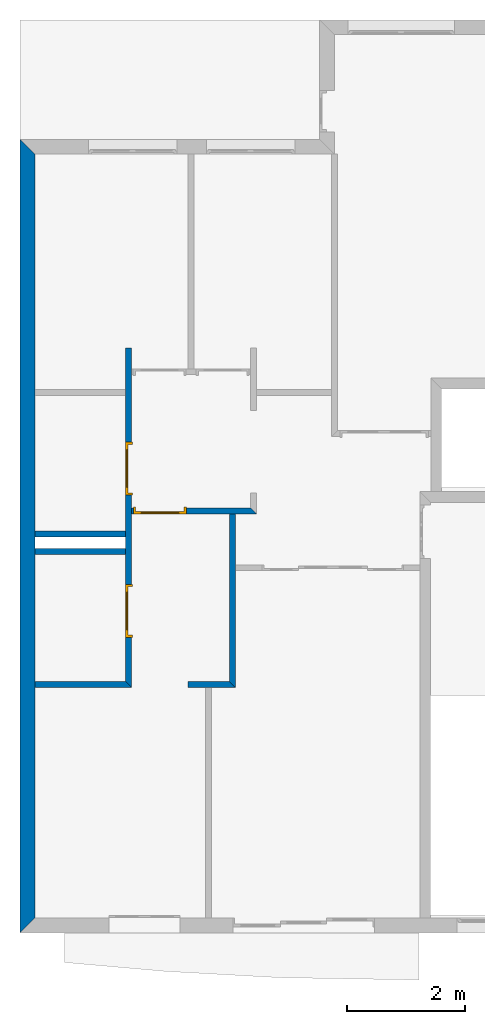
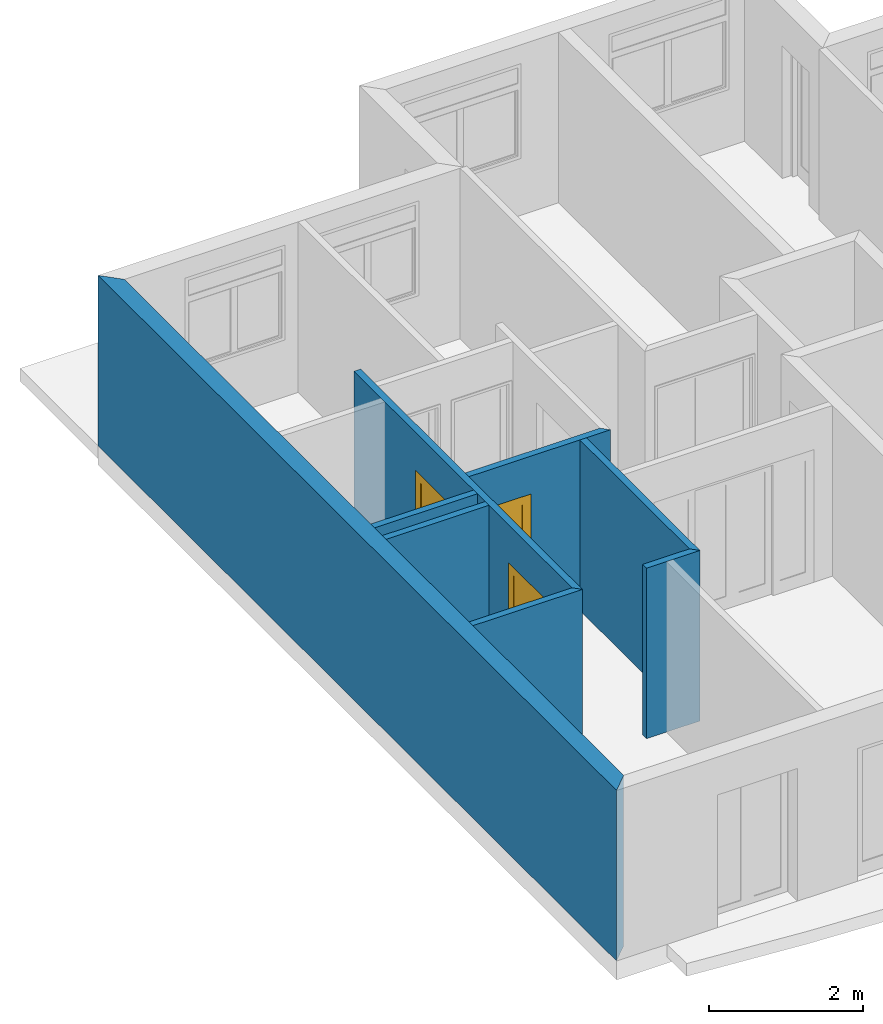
# One storey, part 4 of 12: 8 walls, 3 doors, 3 openings.
"""IFC2X3 building model written with IfcOpenShell, lengths in metres."""

from ifc_helpers import new_model, entity, si_unit, converted_unit, direction, frame, frame_2d, origin_with_axes, place, context, project, spatial, polyline, rectangle, outline, extrude, faceted_brep, source, transform, mapped, material, layer, layer_set, layer_usage, type_object, element, fill, save


model = new_model("IFC2X3")

# Units and contexts
context_of_model = context(None, 3, precision=1e-05, world=origin_with_axes(), true_north=direction((6.123234e-17, 1.0)))
plan_context = context("Plan", 3, precision=1e-05, world=origin_with_axes(), true_north=direction((6.123234e-17, 1.0)))
model_context = context("Model", 3, precision=1e-05, world=origin_with_axes(), true_north=direction((6.123234e-17, 1.0)))
ifc_project = project(units=[si_unit("LENGTHUNIT", "METRE"), si_unit("AREAUNIT", "SQUARE_METRE"), si_unit("VOLUMEUNIT", "CUBIC_METRE"), converted_unit("PLANEANGLEUNIT", "DEGREE", entity("IfcPlaneAngleMeasure", 0.017453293), si_unit("PLANEANGLEUNIT", "RADIAN"), dimensions=[0, 0, 0, 0, 0, 0, 0]), si_unit("SOLIDANGLEUNIT", "STERADIAN"), si_unit("MASSUNIT", "GRAM"), si_unit("TIMEUNIT", "SECOND"), si_unit("THERMODYNAMICTEMPERATUREUNIT", "DEGREE_CELSIUS"), si_unit("LUMINOUSINTENSITYUNIT", "LUMEN")], contexts=[context_of_model, plan_context, model_context])

# Site, building, storey
site_placement = place(None, origin_with_axes())
site = spatial("IfcSite", under=ifc_project, at=site_placement, Name="Por defecto Sitio", CompositionType="ELEMENT")
building_placement = place(site_placement, origin_with_axes())
building = spatial("IfcBuilding", under=site, at=building_placement, Name="Por defecto Edificio", CompositionType="ELEMENT")
storey_placement = place(building_placement, frame((0.0, 0.0, 10.2), z_axis=(0.0, 0.0, 1.0), x_axis=(1.0, 0.0, 0.0)))
storey = spatial("IfcBuildingStorey", under=building, at=storey_placement, Name="Tercera", CompositionType="ELEMENT", Elevation=10.2)

# Wall
ifc_material_1 = material(Name="Doble 1:4")
ifc_layer_1 = layer(ifc_material_1, 0.25, ventilated="UNKNOWN")
ifc_layer_set_1 = layer_set([ifc_layer_1], Name="Doble 1:4")
ifc_layer_usage_1 = layer_usage(ifc_layer_set_1, "AXIS2", "NEGATIVE", 0.0)
wall_type_1 = type_object("IfcWallType", Name="Doble 1:4", PredefinedType="NOTDEFINED")
wall_1_placement = place(storey_placement, frame((0.0, 0.0, 0.0), z_axis=(0.0, 0.0, 1.0), x_axis=(0.0, 1.0, 0.0)))
element("IfcWallStandardCase", 1, at=wall_1_placement, inside=storey, type_object=wall_type_1, material=ifc_layer_usage_1, Name="Muro-011", context=context_of_model, shape_type="SweptSolid", body=[
    extrude(outline(polyline([(0.25, -0.25), (13.199173, -0.25), (13.449173, 0.0), (0.0, 0.0), (0.25, -0.25)])), origin_with_axes(), (0.0, 0.0, 1.0), 2.7),
])

# Wall, opening, door
ifc_material_2 = material(Name="Ladrillo común")
ifc_layer_2 = layer(ifc_material_2, 0.1, ventilated="UNKNOWN")
ifc_layer_set_2 = layer_set([ifc_layer_2], Name="Ladrillo común")
ifc_layer_usage_2 = layer_usage(ifc_layer_set_2, "AXIS2", "NEGATIVE", 0.0)
wall_type_2 = type_object("IfcWallType", Name="Ladrillo común", PredefinedType="NOTDEFINED")
wall_2_placement = place(storey_placement, frame((1.8901652, 7.2022014, 0.0), z_axis=(0.0, 0.0, 1.0), x_axis=(1.0, 0.0, 0.0)))
wall_2 = element("IfcWallStandardCase", 2, at=wall_2_placement, inside=storey, type_object=wall_type_2, material=ifc_layer_usage_2, Name="Muro-024", context=context_of_model, shape_type="SweptSolid", body=[
    extrude(outline(polyline([(0.0, -0.1), (2.12, -0.1), (2.02, 0.0), (0.0, 0.0), (0.0, -0.1)])), origin_with_axes(), (0.0, 0.0, 1.0), 2.7),
])
opening_1_placement = place(wall_2_placement, frame((0.48089372, -0.1, 0.0), z_axis=(0.0, 0.0, 1.0), x_axis=(1.0, 0.0, 0.0)))
opening_1 = element("IfcOpeningElement", 3, at=opening_1_placement, cuts=wall_2, ObjectType="Opening", context=model_context, shape_type="SweptSolid", body=[
    extrude(rectangle(XDim=0.9, YDim=2.1, at=frame_2d((-1.110223e-16, 1.05), x_axis=(-1.0, 0.0))), frame((0.0, 0.0, 0.0), z_axis=(0.0, 1.0, 0.0), x_axis=(-1.0, 0.0, 0.0)), (0.0, 0.0, 1.0), 0.1),
])
door_style_1 = type_object("IfcDoorStyle", Name="P1 12", ConstructionType="NOTDEFINED", OperationType="SINGLE_SWING_LEFT", ParameterTakesPrecedence=False, Sizeable=False)
shared_shape_1 = source(origin_with_axes(), model_context, "Body", "Brep", [
    faceted_brep([(0.86, 0.075, -3.6739404e-18), (0.86, 0.0, 9.184851e-19), (0.86, 0.0, 2.06), (0.86, 0.075, 2.06), (0.872, 0.075, -3.6739404e-18), (0.872, 0.115, -6.123234e-18), (0.9, 0.115, -6.123234e-18), (0.9, 0.0, 9.184851e-19), (0.9, 0.0, 2.06), (0.872, 0.075, 2.06), (0.9, 0.115, 2.06), (0.872, 0.115, 2.06)], [[[0, 1, 2, 3]], [[4, 5, 6, 7, 1, 0]], [[7, 8, 2, 1]], [[9, 3, 2, 8, 10, 11]], [[9, 4, 0, 3]], [[11, 5, 4, 9]], [[11, 10, 6, 5]], [[8, 7, 6, 10]]]),
    faceted_brep([(0.028, 0.075, 2.06), (0.028, 0.115, 2.06), (0.0, 0.115, 2.06), (0.0, 0.0, 2.06), (0.04, 0.0, 2.06), (0.04, 0.075, 2.06), (0.028, 0.075, -3.6739404e-18), (0.028, 0.115, -6.123234e-18), (0.0, 0.115, -6.123234e-18), (0.0, 0.0, 0.0), (0.04, 0.0, 9.184851e-19), (0.04, 0.075, -3.6739404e-18)], [[[0, 1, 2, 3, 4, 5]], [[0, 6, 7, 1]], [[7, 8, 2, 1]], [[9, 3, 2, 8]], [[10, 4, 3, 9]], [[5, 4, 10, 11]], [[5, 11, 6, 0]], [[6, 11, 10, 9, 8, 7]]]),
    faceted_brep([(0.872, 0.115, 2.072), (0.028, 0.115, 2.072), (0.028, 0.115, 2.06), (0.0, 0.115, 2.06), (0.0, 0.115, 2.1), (0.9, 0.115, 2.1), (0.9, 0.115, 2.06), (0.872, 0.115, 2.06), (0.872, 0.075, 2.072), (0.028, 0.075, 2.072), (0.028, 0.075, 2.06), (0.04, 0.075, 2.06), (0.04, 0.0, 2.06), (0.0, 0.0, 2.06), (0.0, 0.0, 2.1), (0.9, 0.0, 2.1), (0.9, 0.0, 2.06), (0.872, 0.075, 2.06), (0.86, 0.0, 2.06), (0.86, 0.075, 2.06)], [[[0, 1, 2, 3, 4, 5, 6, 7]], [[0, 8, 9, 1]], [[1, 9, 10, 2]], [[10, 11, 12, 13, 3, 2]], [[13, 14, 4, 3]], [[14, 15, 5, 4]], [[15, 16, 6, 5]], [[17, 7, 6, 16, 18, 19]], [[7, 17, 8, 0]], [[10, 9, 8, 17, 19, 11]], [[19, 18, 12, 11]], [[14, 13, 12, 18, 16, 15]]]),
    faceted_brep([(0.028, 0.115, 0.2), (0.128, 0.115, 0.2), (0.128, 0.075, 0.2), (0.028, 0.075, 0.2), (0.028, 0.115, 1.972), (0.128, 0.115, 1.972), (0.128, 0.075, 1.972), (0.028, 0.075, 1.972)], [[[0, 1, 2, 3]], [[0, 4, 5, 1]], [[1, 5, 6, 2]], [[3, 2, 6, 7]], [[4, 0, 3, 7]], [[5, 4, 7, 6]]]),
    faceted_brep([(0.872, 0.115, 0.2), (0.872, 0.115, 1.972), (0.872, 0.075, 1.972), (0.872, 0.075, 0.2), (0.772, 0.115, 0.2), (0.772, 0.115, 1.972), (0.772, 0.075, 1.972), (0.772, 0.075, 0.2)], [[[0, 1, 2, 3]], [[0, 4, 5, 1]], [[1, 5, 6, 2]], [[3, 2, 6, 7]], [[4, 0, 3, 7]], [[5, 4, 7, 6]]]),
    faceted_brep([(0.028, 0.115, -6.123234e-18), (0.872, 0.115, -6.123234e-18), (0.872, 0.075, -3.6739404e-18), (0.028, 0.075, -3.6739404e-18), (0.028, 0.115, 0.2), (0.128, 0.115, 0.2), (0.772, 0.115, 0.2), (0.872, 0.115, 0.2), (0.872, 0.075, 0.2), (0.772, 0.075, 0.2), (0.128, 0.075, 0.2), (0.028, 0.075, 0.2)], [[[0, 1, 2, 3]], [[0, 4, 5, 6, 7, 1]], [[1, 7, 8, 2]], [[3, 2, 8, 9, 10, 11]], [[4, 0, 3, 11]], [[5, 4, 11, 10]], [[6, 5, 10, 9]], [[7, 6, 9, 8]]]),
    faceted_brep([(0.028, 0.115, 2.072), (0.028, 0.115, 1.972), (0.028, 0.075, 1.972), (0.028, 0.075, 2.072), (0.872, 0.115, 2.072), (0.872, 0.115, 1.972), (0.772, 0.115, 1.972), (0.128, 0.115, 1.972), (0.128, 0.075, 1.972), (0.772, 0.075, 1.972), (0.872, 0.075, 1.972), (0.872, 0.075, 2.072)], [[[0, 1, 2, 3]], [[0, 4, 5, 6, 7, 1]], [[1, 7, 8, 2]], [[3, 2, 8, 9, 10, 11]], [[4, 0, 3, 11]], [[5, 4, 11, 10]], [[6, 5, 10, 9]], [[7, 6, 9, 8]]]),
    faceted_brep([(0.128, 0.101, 0.2), (0.772, 0.101, 0.2), (0.772, 0.089, 0.2), (0.128, 0.089, 0.2), (0.128, 0.101, 1.972), (0.772, 0.101, 1.972), (0.772, 0.089, 1.972), (0.128, 0.089, 1.972)], [[[0, 1, 2, 3]], [[0, 4, 5, 1]], [[1, 5, 6, 2]], [[3, 2, 6, 7]], [[4, 0, 3, 7]], [[5, 4, 7, 6]]]),
])
door_1_placement = place(opening_1_placement, frame((0.45, 0.115, 0.0), z_axis=(0.0, 0.0, 1.0), x_axis=(-1.0, 0.0, 0.0)))
door_1 = element("IfcDoor", 4, at=door_1_placement, inside=storey, type_object=door_style_1, Name="P17", OverallHeight=2.1, OverallWidth=0.9, context=model_context, shape_type="MappedRepresentation", body=[
    mapped(shared_shape_1, transform((0.0, 0.0, 0.0), scale=1.0)),
])
fill(opening_1, door_1)

# Wall, openings, doors
ifc_layer_usage_3 = layer_usage(ifc_layer_set_2, "AXIS2", "NEGATIVE", 0.0)
wall_3_placement = place(storey_placement, frame((1.8901652, 9.9109196, 0.0), z_axis=(0.0, 0.0, 1.0), x_axis=(0.0, -1.0, 0.0)))
wall_3 = element("IfcWallStandardCase", 5, at=wall_3_placement, inside=storey, type_object=wall_type_2, material=ifc_layer_usage_3, Name="Muro-034", context=context_of_model, shape_type="SweptSolid", body=[
    extrude(outline(polyline([(0.0, -0.1), (5.6520584, -0.1), (5.7520584, 0.0), (0.0, 0.0), (0.0, -0.1)])), origin_with_axes(), (0.0, 0.0, 1.0), 2.7),
])
opening_2_placement = place(wall_3_placement, frame((4.45317, -0.1, 0.0), z_axis=(0.0, 0.0, 1.0), x_axis=(1.0, 0.0, 0.0)))
opening_2 = element("IfcOpeningElement", 6, at=opening_2_placement, cuts=wall_3, ObjectType="Opening", context=model_context, shape_type="SweptSolid", body=[
    extrude(rectangle(XDim=0.9, YDim=2.1, at=frame_2d((0.0, 1.05), x_axis=(-1.0, 0.0))), frame((0.0, 0.0, 0.0), z_axis=(0.0, 1.0, 0.0), x_axis=(-1.0, 0.0, 0.0)), (0.0, 0.0, 1.0), 0.1),
])
opening_3_placement = place(wall_3_placement, frame((2.0425457, -0.1, 0.0), z_axis=(0.0, 0.0, 1.0), x_axis=(1.0, 0.0, 0.0)))
opening_3 = element("IfcOpeningElement", 7, at=opening_3_placement, cuts=wall_3, ObjectType="Opening", context=model_context, shape_type="SweptSolid", body=[
    extrude(rectangle(XDim=0.9, YDim=2.1, at=frame_2d((0.0, 1.05), x_axis=(-1.0, 0.0))), frame((0.0, 0.0, 0.0), z_axis=(0.0, 1.0, 0.0), x_axis=(-1.0, 0.0, 0.0)), (0.0, 0.0, 1.0), 0.1),
])
door_style_2 = type_object("IfcDoorStyle", Name="P1 12", ConstructionType="NOTDEFINED", OperationType="SINGLE_SWING_RIGHT", ParameterTakesPrecedence=False, Sizeable=False)
shared_shape_2 = source(origin_with_axes(), model_context, "Body", "Brep", [
    faceted_brep([(0.04, 0.075, -2.4492936e-18), (0.04, 0.075, 2.06), (0.04, -9.3258734e-14, 2.06), (0.04, -9.3258734e-14, -7.0417191e-18), (0.028, 0.075, 2.06), (0.028, 0.075, -2.4492936e-18), (0.028, 0.115, 2.06), (2.220446e-16, 0.115, 2.06), (1.7763568e-15, -9.4146912e-14, 2.06), (0.0, 0.0, 0.0), (2.220446e-16, 0.115, 3.3744595e-33), (0.028, 0.115, 3.2707143e-33)], [[[0, 1, 2, 3]], [[4, 1, 0, 5]], [[4, 6, 7, 8, 2, 1]], [[9, 3, 2, 8]], [[5, 0, 3, 9, 10, 11]], [[6, 4, 5, 11]], [[6, 11, 10, 7]], [[8, 7, 10, 9]]]),
    faceted_brep([(0.872, 0.075, 2.06), (0.86, 0.075, 2.06), (0.86, -8.0824236e-14, 2.06), (0.9, -7.9936058e-14, 2.06), (0.9, 0.115, 2.06), (0.872, 0.115, 2.06), (0.872, 0.075, -2.4492936e-18), (0.86, 0.075, -2.4492936e-18), (0.86, -8.0824236e-14, -7.0417191e-18), (0.9, -7.9936058e-14, -7.0417191e-18), (0.9, 0.115, -3.3744595e-33), (0.872, 0.115, -3.1644931e-33)], [[[0, 1, 2, 3, 4, 5]], [[1, 0, 6, 7]], [[1, 7, 8, 2]], [[8, 9, 3, 2]], [[9, 10, 4, 3]], [[11, 5, 4, 10]], [[0, 5, 11, 6]], [[6, 11, 10, 9, 8, 7]]]),
    faceted_brep([(0.028, 0.115, 2.072), (0.028, 0.115, 2.06), (2.220446e-16, 0.115, 2.06), (2.220446e-16, 0.115, 2.1), (0.9, 0.115, 2.1), (0.9, 0.115, 2.06), (0.872, 0.115, 2.06), (0.872, 0.115, 2.072), (0.028, 0.075, 2.072), (0.028, 0.075, 2.06), (0.04, 0.075, 2.06), (0.04, -9.3258734e-14, 2.06), (1.7763568e-15, -9.4146912e-14, 2.06), (1.7763568e-15, -9.4146912e-14, 2.1), (0.9, -7.9936058e-14, 2.1), (0.9, -7.9936058e-14, 2.06), (0.872, 0.075, 2.06), (0.86, -8.0824236e-14, 2.06), (0.86, 0.075, 2.06), (0.872, 0.075, 2.072)], [[[0, 1, 2, 3, 4, 5, 6, 7]], [[1, 0, 8, 9]], [[9, 10, 11, 12, 2, 1]], [[13, 3, 2, 12]], [[14, 4, 3, 13]], [[15, 5, 4, 14]], [[16, 6, 5, 15, 17, 18]], [[7, 6, 16, 19]], [[0, 7, 19, 8]], [[16, 18, 10, 9, 8, 19]], [[10, 18, 17, 11]], [[14, 13, 12, 11, 17, 15]]]),
    faceted_brep([(0.872, 0.115, 0.2), (0.872, 0.075, 0.2), (0.772, 0.075, 0.2), (0.772, 0.115, 0.2), (0.872, 0.115, 1.972), (0.872, 0.075, 1.972), (0.772, 0.075, 1.972), (0.772, 0.115, 1.972)], [[[0, 1, 2, 3]], [[4, 5, 1, 0]], [[1, 5, 6, 2]], [[3, 2, 6, 7]], [[0, 3, 7, 4]], [[7, 6, 5, 4]]]),
    faceted_brep([(0.028, 0.115, 0.2), (0.028, 0.075, 0.2), (0.028, 0.075, 1.972), (0.028, 0.115, 1.972), (0.128, 0.115, 0.2), (0.128, 0.075, 0.2), (0.128, 0.075, 1.972), (0.128, 0.115, 1.972)], [[[0, 1, 2, 3]], [[4, 5, 1, 0]], [[1, 5, 6, 2]], [[3, 2, 6, 7]], [[0, 3, 7, 4]], [[7, 6, 5, 4]]]),
    faceted_brep([(0.872, 0.115, -3.1644931e-33), (0.872, 0.075, -2.4492936e-18), (0.028, 0.075, -2.4492936e-18), (0.028, 0.115, 3.1644931e-33), (0.872, 0.115, 0.2), (0.872, 0.075, 0.2), (0.772, 0.075, 0.2), (0.128, 0.075, 0.2), (0.028, 0.075, 0.2), (0.028, 0.115, 0.2), (0.128, 0.115, 0.2), (0.772, 0.115, 0.2)], [[[0, 1, 2, 3]], [[4, 5, 1, 0]], [[1, 5, 6, 7, 8, 2]], [[3, 2, 8, 9]], [[0, 3, 9, 10, 11, 4]], [[11, 6, 5, 4]], [[10, 7, 6, 11]], [[9, 8, 7, 10]]]),
    faceted_brep([(0.872, 0.115, 2.072), (0.872, 0.075, 2.072), (0.872, 0.075, 1.972), (0.872, 0.115, 1.972), (0.028, 0.115, 2.072), (0.028, 0.075, 2.072), (0.028, 0.075, 1.972), (0.128, 0.075, 1.972), (0.772, 0.075, 1.972), (0.772, 0.115, 1.972), (0.128, 0.115, 1.972), (0.028, 0.115, 1.972)], [[[0, 1, 2, 3]], [[4, 5, 1, 0]], [[1, 5, 6, 7, 8, 2]], [[3, 2, 8, 9]], [[0, 3, 9, 10, 11, 4]], [[11, 6, 5, 4]], [[10, 7, 6, 11]], [[9, 8, 7, 10]]]),
    faceted_brep([(0.772, 0.101, 0.2), (0.772, 0.089, 0.2), (0.128, 0.089, 0.2), (0.128, 0.101, 0.2), (0.772, 0.101, 1.972), (0.772, 0.089, 1.972), (0.128, 0.089, 1.972), (0.128, 0.101, 1.972)], [[[0, 1, 2, 3]], [[4, 5, 1, 0]], [[1, 5, 6, 2]], [[3, 2, 6, 7]], [[0, 3, 7, 4]], [[7, 6, 5, 4]]]),
])
door_2_placement = place(opening_3_placement, frame((0.45, 0.115, 0.0), z_axis=(0.0, 0.0, 1.0), x_axis=(-1.0, 0.0, 0.0)))
door_2 = element("IfcDoor", 8, at=door_2_placement, inside=storey, type_object=door_style_2, Name="P19", OverallHeight=2.1, OverallWidth=0.9, context=model_context, shape_type="MappedRepresentation", body=[
    mapped(shared_shape_2, transform((0.0, 0.0, 0.0), scale=1.0)),
])
fill(opening_3, door_2)
door_style_3 = type_object("IfcDoorStyle", Name="P1 12", ConstructionType="NOTDEFINED", OperationType="SINGLE_SWING_LEFT", ParameterTakesPrecedence=False, Sizeable=False)
door_3_placement = place(opening_2_placement, frame((0.45, 0.115, 0.0), z_axis=(0.0, 0.0, 1.0), x_axis=(-1.0, 0.0, 0.0)))
door_3 = element("IfcDoor", 9, at=door_3_placement, inside=storey, type_object=door_style_3, Name="P18", OverallHeight=2.1, OverallWidth=0.9, context=model_context, shape_type="MappedRepresentation", body=[
    mapped(shared_shape_1, transform((0.0, 0.0, 0.0), scale=1.0)),
])
fill(opening_2, door_3)

# Walls
ifc_layer_usage_4 = layer_usage(ifc_layer_set_2, "AXIS2", "NEGATIVE", 0.0)
wall_4_placement = place(storey_placement, frame((3.6501652, 4.1588613, 0.0), z_axis=(0.0, 0.0, 1.0), x_axis=(-1.0, 0.0, 0.0)))
element("IfcWallStandardCase", 10, at=wall_4_placement, inside=storey, type_object=wall_type_2, material=ifc_layer_usage_4, Name="Muro-020", context=context_of_model, shape_type="SweptSolid", body=[
    extrude(outline(polyline([(0.1, -0.1), (0.8, -0.1), (0.8, 0.0), (0.0, 0.0), (0.1, -0.1)])), origin_with_axes(), (0.0, 0.0, 1.0), 2.7),
])
ifc_layer_usage_5 = layer_usage(ifc_layer_set_2, "AXIS2", "NEGATIVE", 0.0)
wall_5_placement = place(storey_placement, frame((1.8901652, 6.4112172, 0.0), z_axis=(0.0, 0.0, 1.0), x_axis=(-1.0, 0.0, 0.0)))
element("IfcWallStandardCase", 11, at=wall_5_placement, inside=storey, type_object=wall_type_2, material=ifc_layer_usage_5, Name="Muro-036", context=context_of_model, shape_type="SweptSolid", body=[
    extrude(outline(polyline([(0.1, -0.1), (1.6401652, -0.1), (1.6401652, 0.0), (0.1, 0.0), (0.1, -0.1)])), origin_with_axes(), (0.0, 0.0, 1.0), 2.7),
])
ifc_layer_usage_6 = layer_usage(ifc_layer_set_2, "AXIS2", "POSITIVE", 0.0)
wall_6_placement = place(storey_placement, frame((1.8901652, 6.8112172, 0.0), z_axis=(0.0, 0.0, 1.0), x_axis=(-1.0, 0.0, 0.0)))
element("IfcWallStandardCase", 12, at=wall_6_placement, inside=storey, type_object=wall_type_2, material=ifc_layer_usage_6, Name="Muro-035", context=context_of_model, shape_type="SweptSolid", body=[
    extrude(outline(polyline([(0.1, 0.0), (1.6401652, 0.0), (1.6401652, 0.1), (0.1, 0.1), (0.1, 0.0)])), origin_with_axes(), (0.0, 0.0, 1.0), 2.7),
])
ifc_layer_usage_7 = layer_usage(ifc_layer_set_2, "AXIS2", "POSITIVE", 0.0)
wall_7_placement = place(storey_placement, frame((0.0, 4.1588613, 0.0), z_axis=(0.0, 0.0, 1.0), x_axis=(1.0, 0.0, 0.0)))
element("IfcWallStandardCase", 13, at=wall_7_placement, inside=storey, type_object=wall_type_2, material=ifc_layer_usage_7, Name="Muro-020", context=context_of_model, shape_type="SweptSolid", body=[
    extrude(outline(polyline([(0.25, 0.0), (1.8901652, 0.0), (1.7901652, 0.1), (0.25, 0.1), (0.25, 0.0)])), origin_with_axes(), (0.0, 0.0, 1.0), 2.7),
])
ifc_layer_usage_8 = layer_usage(ifc_layer_set_2, "AXIS2", "POSITIVE", 0.0)
wall_8_placement = place(storey_placement, frame((3.6501652, 4.1588613, 0.0), z_axis=(0.0, 0.0, 1.0), x_axis=(0.0, 1.0, 0.0)))
element("IfcWallStandardCase", 14, at=wall_8_placement, inside=storey, type_object=wall_type_2, material=ifc_layer_usage_8, Name="Muro-021", context=context_of_model, shape_type="SweptSolid", body=[
    extrude(outline(polyline([(0.0, 0.0), (2.9433401, 0.0), (2.9433401, 0.1), (0.1, 0.1), (0.0, 0.0)])), origin_with_axes(), (0.0, 0.0, 1.0), 2.7),
])

save(model, "model.ifc")
